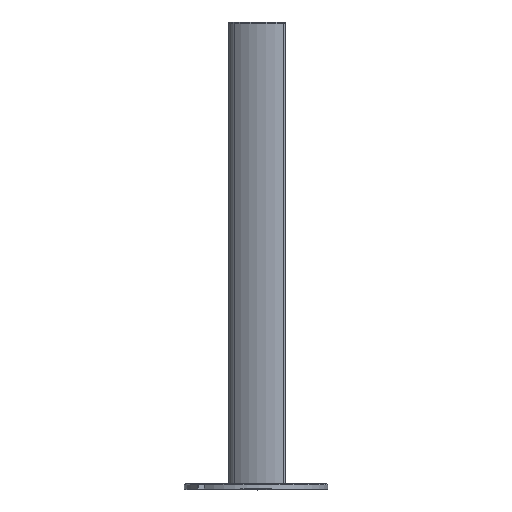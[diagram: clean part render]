
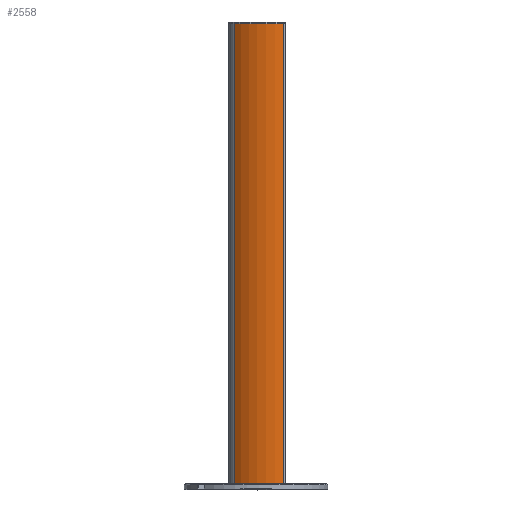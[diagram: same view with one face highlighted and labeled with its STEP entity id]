
A CAD part, top view. The second image highlights one B-rep face of the part: STEP entity #2558.
In plain terms, the highlighted cylindrical face has radius 79.059 mm (diameter 158.118 mm), a partial arc.
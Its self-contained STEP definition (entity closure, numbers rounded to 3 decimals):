
#72=CARTESIAN_POINT('',(24.886,-305.,-29.268));
#73=DIRECTION('',(0.,1.,0.));
#74=DIRECTION('',(-0.694,0.,0.72));
#75=AXIS2_PLACEMENT_3D('',#72,#73,#74);
#646=DIRECTION('',(0.,1.,0.));
#647=VECTOR('',#646,610.);
#648=CARTESIAN_POINT('',(35.448,-305.,49.083));
#649=LINE('',#648,#647);
#650=DIRECTION('',(0.,1.,0.));
#651=VECTOR('',#650,610.);
#652=CARTESIAN_POINT('',(-30.018,-305.,27.617));
#653=LINE('',#652,#651);
#1015=CARTESIAN_POINT('',(24.886,305.,-29.268));
#1016=DIRECTION('',(0.,1.,0.));
#1017=DIRECTION('',(-0.694,0.,0.72));
#1018=AXIS2_PLACEMENT_3D('',#1015,#1016,#1017);
#1116=CARTESIAN_POINT('',(-30.018,-305.,27.617));
#1117=VERTEX_POINT('',#1116);
#1118=CARTESIAN_POINT('',(35.448,-305.,49.083));
#1119=VERTEX_POINT('',#1118);
#1282=CARTESIAN_POINT('',(-30.018,305.,27.617));
#1283=VERTEX_POINT('',#1282);
#1284=CARTESIAN_POINT('',(35.448,305.,49.083));
#1285=VERTEX_POINT('',#1284);
#2545=CARTESIAN_POINT('',(24.886,-305.,-29.268));
#2546=DIRECTION('',(0.,1.,0.));
#2547=DIRECTION('',(1.,0.,0.));
#2548=AXIS2_PLACEMENT_3D('',#2545,#2546,#2547);
#2549=CYLINDRICAL_SURFACE('',#2548,79.059);
#2550=ORIENTED_EDGE('',*,*,#1453,.F.);
#2552=ORIENTED_EDGE('',*,*,#2551,.T.);
#2554=ORIENTED_EDGE('',*,*,#2553,.T.);
#2555=ORIENTED_EDGE('',*,*,#2537,.F.);
#2556=EDGE_LOOP('',(#2550,#2552,#2554,#2555));
#2557=FACE_OUTER_BOUND('',#2556,.F.);
#2558=ADVANCED_FACE('',(#2557),#2549,.T.);
#76=CIRCLE('',#75,79.059);
#1019=CIRCLE('',#1018,79.059);
#1453=EDGE_CURVE('',#1117,#1119,#76,.T.);
#2537=EDGE_CURVE('',#1119,#1285,#649,.T.);
#2551=EDGE_CURVE('',#1117,#1283,#653,.T.);
#2553=EDGE_CURVE('',#1283,#1285,#1019,.T.);
